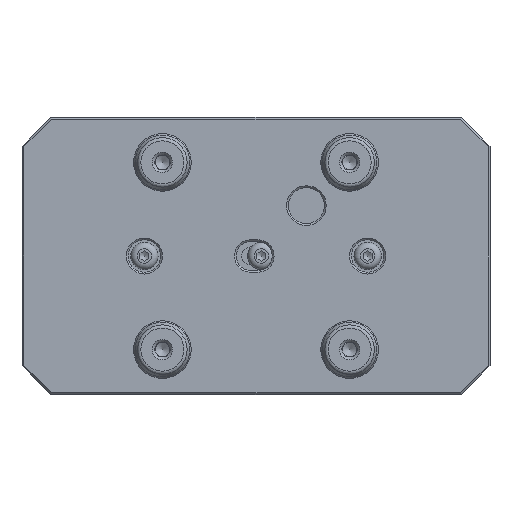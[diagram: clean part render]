
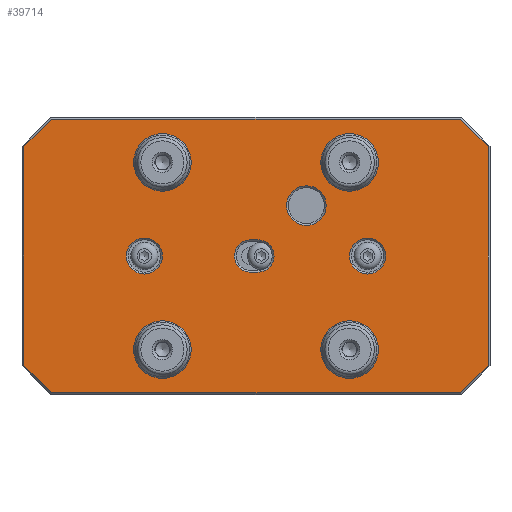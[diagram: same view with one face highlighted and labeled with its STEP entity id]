
A CAD part, front view. The second image highlights one B-rep face of the part: STEP entity #39714.
In plain terms, the highlighted planar face has unit normal (0, -1, 0).
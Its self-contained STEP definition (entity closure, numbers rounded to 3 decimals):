
#1740=FACE_BOUND('',#5465,.T.);
#1741=FACE_BOUND('',#5466,.T.);
#1742=FACE_BOUND('',#5467,.T.);
#1743=FACE_BOUND('',#5468,.T.);
#1744=FACE_BOUND('',#5469,.T.);
#1745=FACE_BOUND('',#5470,.T.);
#1746=FACE_BOUND('',#5471,.T.);
#1747=FACE_BOUND('',#5472,.T.);
#1993=PLANE('',#42021);
#3220=FACE_OUTER_BOUND('',#5464,.T.);
#5464=EDGE_LOOP('',(#27494,#27495,#27496,#27497,#27498,#27499,#27500,#27501));
#5465=EDGE_LOOP('',(#27502,#27503,#27504,#27505));
#5466=EDGE_LOOP('',(#27506));
#5467=EDGE_LOOP('',(#27507));
#5468=EDGE_LOOP('',(#27508));
#5469=EDGE_LOOP('',(#27509));
#5470=EDGE_LOOP('',(#27510));
#5471=EDGE_LOOP('',(#27511));
#5472=EDGE_LOOP('',(#27512));
#7961=CIRCLE('',#42022,4.5);
#7962=CIRCLE('',#42023,4.5);
#7963=CIRCLE('',#42024,5.);
#7964=CIRCLE('',#42025,5.);
#7965=CIRCLE('',#42026,7.498);
#7966=CIRCLE('',#42027,7.498);
#7967=CIRCLE('',#42028,7.498);
#7968=CIRCLE('',#42029,7.498);
#7969=CIRCLE('',#42030,5.5);
#9916=LINE('',#54157,#13707);
#9917=LINE('',#54159,#13708);
#9918=LINE('',#54161,#13709);
#9919=LINE('',#54163,#13710);
#9920=LINE('',#54165,#13711);
#9921=LINE('',#54167,#13712);
#9922=LINE('',#54169,#13713);
#9923=LINE('',#54170,#13714);
#9924=LINE('',#54175,#13715);
#9925=LINE('',#54178,#13716);
#13707=VECTOR('',#44805,60.586);
#13708=VECTOR('',#44806,10.899);
#13709=VECTOR('',#44807,113.586);
#13710=VECTOR('',#44808,10.899);
#13711=VECTOR('',#44809,60.586);
#13712=VECTOR('',#44810,10.899);
#13713=VECTOR('',#44811,113.586);
#13714=VECTOR('',#44812,10.899);
#13715=VECTOR('',#44815,2.);
#13716=VECTOR('',#44818,2.);
#17500=VERTEX_POINT('',#54155);
#17501=VERTEX_POINT('',#54156);
#17502=VERTEX_POINT('',#54158);
#17503=VERTEX_POINT('',#54160);
#17504=VERTEX_POINT('',#54162);
#17505=VERTEX_POINT('',#54164);
#17506=VERTEX_POINT('',#54166);
#17507=VERTEX_POINT('',#54168);
#17508=VERTEX_POINT('',#54171);
#17509=VERTEX_POINT('',#54172);
#17510=VERTEX_POINT('',#54174);
#17511=VERTEX_POINT('',#54176);
#17512=VERTEX_POINT('',#54179);
#17513=VERTEX_POINT('',#54181);
#17514=VERTEX_POINT('',#54183);
#17515=VERTEX_POINT('',#54185);
#17516=VERTEX_POINT('',#54187);
#17517=VERTEX_POINT('',#54189);
#17518=VERTEX_POINT('',#54191);
#21474=EDGE_CURVE('',#17500,#17501,#9916,.T.);
#21475=EDGE_CURVE('',#17502,#17500,#9917,.T.);
#21476=EDGE_CURVE('',#17503,#17502,#9918,.T.);
#21477=EDGE_CURVE('',#17504,#17503,#9919,.T.);
#21478=EDGE_CURVE('',#17505,#17504,#9920,.T.);
#21479=EDGE_CURVE('',#17506,#17505,#9921,.T.);
#21480=EDGE_CURVE('',#17507,#17506,#9922,.T.);
#21481=EDGE_CURVE('',#17501,#17507,#9923,.T.);
#21482=EDGE_CURVE('',#17508,#17509,#7961,.T.);
#21483=EDGE_CURVE('',#17510,#17508,#9924,.T.);
#21484=EDGE_CURVE('',#17511,#17510,#7962,.T.);
#21485=EDGE_CURVE('',#17509,#17511,#9925,.T.);
#21486=EDGE_CURVE('',#17512,#17512,#7963,.T.);
#21487=EDGE_CURVE('',#17513,#17513,#7964,.T.);
#21488=EDGE_CURVE('',#17514,#17514,#7965,.T.);
#21489=EDGE_CURVE('',#17515,#17515,#7966,.T.);
#21490=EDGE_CURVE('',#17516,#17516,#7967,.T.);
#21491=EDGE_CURVE('',#17517,#17517,#7968,.T.);
#21492=EDGE_CURVE('',#17518,#17518,#7969,.T.);
#27494=ORIENTED_EDGE('',*,*,#21474,.F.);
#27495=ORIENTED_EDGE('',*,*,#21475,.F.);
#27496=ORIENTED_EDGE('',*,*,#21476,.F.);
#27497=ORIENTED_EDGE('',*,*,#21477,.F.);
#27498=ORIENTED_EDGE('',*,*,#21478,.F.);
#27499=ORIENTED_EDGE('',*,*,#21479,.F.);
#27500=ORIENTED_EDGE('',*,*,#21480,.F.);
#27501=ORIENTED_EDGE('',*,*,#21481,.F.);
#27502=ORIENTED_EDGE('',*,*,#21482,.F.);
#27503=ORIENTED_EDGE('',*,*,#21483,.F.);
#27504=ORIENTED_EDGE('',*,*,#21484,.F.);
#27505=ORIENTED_EDGE('',*,*,#21485,.F.);
#27506=ORIENTED_EDGE('',*,*,#21486,.F.);
#27507=ORIENTED_EDGE('',*,*,#21487,.F.);
#27508=ORIENTED_EDGE('',*,*,#21488,.T.);
#27509=ORIENTED_EDGE('',*,*,#21489,.T.);
#27510=ORIENTED_EDGE('',*,*,#21490,.T.);
#27511=ORIENTED_EDGE('',*,*,#21491,.T.);
#27512=ORIENTED_EDGE('',*,*,#21492,.F.);
#39714=ADVANCED_FACE('',(#3220,#1740,#1741,#1742,#1743,#1744,#1745,#1746,
#1747),#1993,.T.);
#42021=AXIS2_PLACEMENT_3D('',#54154,#44803,#44804);
#42022=AXIS2_PLACEMENT_3D('',#54173,#44813,#44814);
#42023=AXIS2_PLACEMENT_3D('',#54177,#44816,#44817);
#42024=AXIS2_PLACEMENT_3D('',#54180,#44819,#44820);
#42025=AXIS2_PLACEMENT_3D('',#54182,#44821,#44822);
#42026=AXIS2_PLACEMENT_3D('',#54184,#44823,#44824);
#42027=AXIS2_PLACEMENT_3D('',#54186,#44825,#44826);
#42028=AXIS2_PLACEMENT_3D('',#54188,#44827,#44828);
#42029=AXIS2_PLACEMENT_3D('',#54190,#44829,#44830);
#42030=AXIS2_PLACEMENT_3D('',#54192,#44831,#44832);
#44803=DIRECTION('center_axis',(0.,-1.,0.));
#44804=DIRECTION('ref_axis',(0.,0.,
1.));
#44805=DIRECTION('',(0.,0.,-1.));
#44806=DIRECTION('',(0.707,0.,-0.707));
#44807=DIRECTION('',(1.,0.,0.));
#44808=DIRECTION('',(0.707,0.,0.707));
#44809=DIRECTION('',(0.,0.,1.));
#44810=DIRECTION('',(-0.707,0.,0.707));
#44811=DIRECTION('',(-1.,0.,0.));
#44812=DIRECTION('',(-0.707,0.,-0.707));
#44813=DIRECTION('center_axis',(0.,-1.,0.));
#44814=DIRECTION('ref_axis',(-1.,0.,0.));
#44815=DIRECTION('',(-1.,0.,0.));
#44816=DIRECTION('center_axis',(0.,-1.,0.));
#44817=DIRECTION('ref_axis',(1.,0.,0.));
#44818=DIRECTION('',(1.,0.,0.));
#44819=DIRECTION('center_axis',(0.,-1.,0.));
#44820=DIRECTION('ref_axis',(-1.,0.,0.));
#44821=DIRECTION('center_axis',(0.,-1.,0.));
#44822=DIRECTION('ref_axis',(-1.,0.,0.));
#44823=DIRECTION('center_axis',(0.,1.,0.));
#44824=DIRECTION('ref_axis',(0.,0.,1.));
#44825=DIRECTION('center_axis',(0.,1.,0.));
#44826=DIRECTION('ref_axis',(0.,0.,1.));
#44827=DIRECTION('center_axis',(0.,1.,0.));
#44828=DIRECTION('ref_axis',(0.,0.,1.));
#44829=DIRECTION('center_axis',(0.,1.,0.));
#44830=DIRECTION('ref_axis',(0.,0.,1.));
#44831=DIRECTION('center_axis',(0.,-1.,0.));
#44832=DIRECTION('ref_axis',(1.,0.,0.));
#54154=CARTESIAN_POINT('Origin',(0.,0.,
0.));
#54155=CARTESIAN_POINT('',(64.5,0.,30.293));
#54156=CARTESIAN_POINT('',(64.5,0.,-30.293));
#54157=CARTESIAN_POINT('',(64.5,0.,30.293));
#54158=CARTESIAN_POINT('',(56.793,0.,38.));
#54159=CARTESIAN_POINT('',(56.793,0.,38.));
#54160=CARTESIAN_POINT('',(-56.793,0.,38.));
#54161=CARTESIAN_POINT('',(-56.793,0.,38.));
#54162=CARTESIAN_POINT('',(-64.5,0.,30.293));
#54163=CARTESIAN_POINT('',(-64.5,0.,30.293));
#54164=CARTESIAN_POINT('',(-64.5,0.,-30.293));
#54165=CARTESIAN_POINT('',(-64.5,0.,-30.293));
#54166=CARTESIAN_POINT('',(-56.793,0.,-38.));
#54167=CARTESIAN_POINT('',(-56.793,0.,-38.));
#54168=CARTESIAN_POINT('',(56.793,0.,-38.));
#54169=CARTESIAN_POINT('',(56.793,0.,-38.));
#54170=CARTESIAN_POINT('',(64.5,0.,-30.293));
#54171=CARTESIAN_POINT('',(-1.5,0.,4.5));
#54172=CARTESIAN_POINT('',(-1.5,0.,-4.5));
#54173=CARTESIAN_POINT('Origin',(-1.5,0.,0.));
#54174=CARTESIAN_POINT('',(0.5,0.,4.5));
#54175=CARTESIAN_POINT('',(0.5,0.,4.5));
#54176=CARTESIAN_POINT('',(0.5,0.,-4.5));
#54177=CARTESIAN_POINT('Origin',(0.5,0.,0.));
#54178=CARTESIAN_POINT('',(-1.5,0.,-4.5));
#54179=CARTESIAN_POINT('',(36.,0.,0.));
#54180=CARTESIAN_POINT('Origin',(31.,0.,0.));
#54181=CARTESIAN_POINT('',(-26.,0.,0.));
#54182=CARTESIAN_POINT('Origin',(-31.,0.,0.));
#54183=CARTESIAN_POINT('',(-26.,0.,-33.498));
#54184=CARTESIAN_POINT('Origin',(-26.,0.,-26.));
#54185=CARTESIAN_POINT('',(26.,0.,-33.498));
#54186=CARTESIAN_POINT('Origin',(26.,0.,-26.));
#54187=CARTESIAN_POINT('',(26.,0.,18.502));
#54188=CARTESIAN_POINT('Origin',(26.,0.,26.));
#54189=CARTESIAN_POINT('',(-26.,0.,18.502));
#54190=CARTESIAN_POINT('Origin',(-26.,0.,26.));
#54191=CARTESIAN_POINT('',(19.5,0.,14.));
#54192=CARTESIAN_POINT('Origin',(14.,0.,14.));
